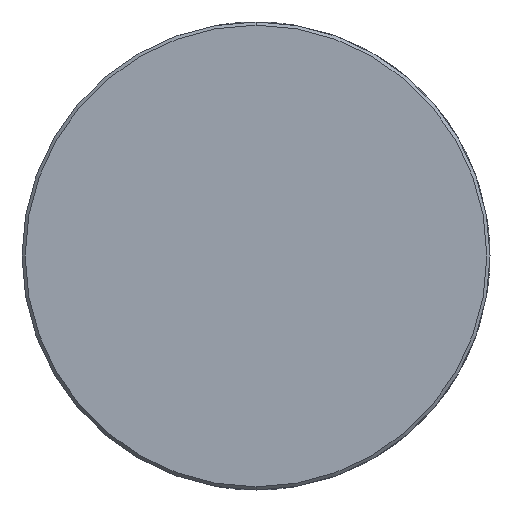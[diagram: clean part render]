
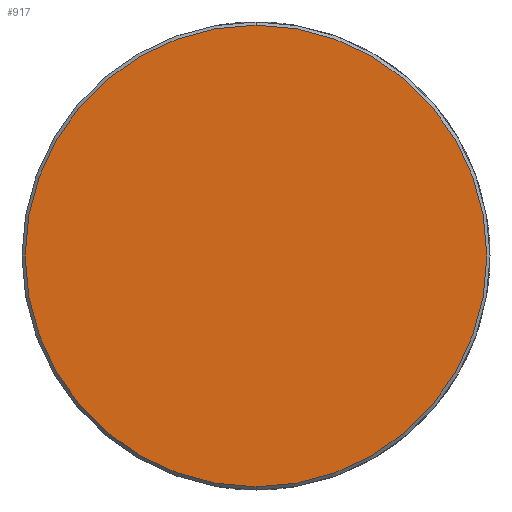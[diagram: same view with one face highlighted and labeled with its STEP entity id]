
A CAD part, front view. The second image highlights one B-rep face of the part: STEP entity #917.
In plain terms, the highlighted planar face has unit normal (0, -1, 0).
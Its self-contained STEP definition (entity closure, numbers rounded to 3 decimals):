
#892=CARTESIAN_POINT('',(0.0,-150.64,36.0));
#893=VERTEX_POINT('',#892);
#894=CARTESIAN_POINT('',(0.0,-150.64,-36.0));
#895=VERTEX_POINT('',#894);
#896=CARTESIAN_POINT('',(0.0,-150.64,0.0));
#897=DIRECTION('',(0.0,-1.0,0.0));
#898=DIRECTION('',(0.0,0.0,1.0));
#899=AXIS2_PLACEMENT_3D('',#896,#897,#898);
#900=CIRCLE('',#899,36.0);
#901=EDGE_CURVE('no 1350',#893,#895,#900,.T.);
#902=ORIENTED_EDGE('',*,*,#901,.T.);
#903=CARTESIAN_POINT('',(0.0,-150.64,0.0));
#904=DIRECTION('',(0.0,-1.0,0.0));
#905=DIRECTION('',(0.0,0.0,1.0));
#906=AXIS2_PLACEMENT_3D('',#903,#904,#905);
#907=CIRCLE('',#906,36.0);
#908=EDGE_CURVE('no 1354',#895,#893,#907,.T.);
#909=ORIENTED_EDGE('',*,*,#908,.T.);
#910=EDGE_LOOP('',(#902,#909));
#911=FACE_OUTER_BOUND('',#910,.T.);
#912=CARTESIAN_POINT('',(36.5,-150.64,0.0));
#913=DIRECTION('',(0.0,1.0,0.0));
#914=DIRECTION('',(0.0,0.0,-1.0));
#915=AXIS2_PLACEMENT_3D('',#912,#913,#914);
#916=PLANE('',#915);
#917=ADVANCED_FACE('no 1341',(#911),#916,.F.);
